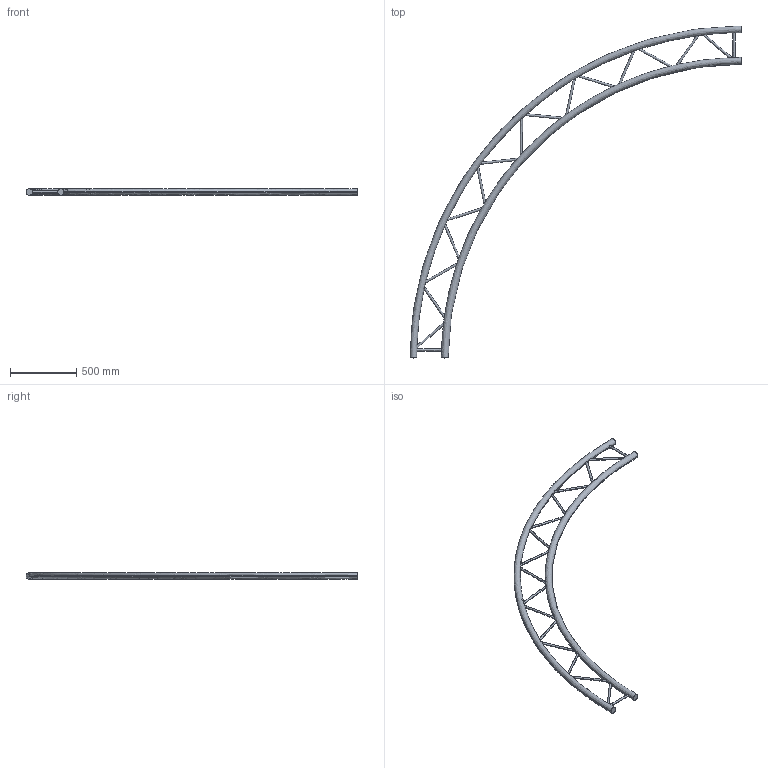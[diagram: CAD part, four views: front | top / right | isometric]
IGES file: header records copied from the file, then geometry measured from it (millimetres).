
Start section: SolidWorks IGES file using analytic representation for surfaces
Global section: file name: K:\BIBLIO\asd_biblio\EX290\Cercles\EXC290H\EXC29500H\EXC29500H.IGS; native system: SolidWorks 2009; preprocessor: SolidWorks 2009; author: des3; date: 091026.103548; units: millimetre
Bounding box: 2500 x 2500 x 50 mm (x, y, z)
Surface area: 1382307.9 mm2 (no closed solid volume)
Topology: 0 solids, 0 shells, 42 faces, 2970 edges, 2970 vertices
Faces by surface type: revolution 34, bspline 8
